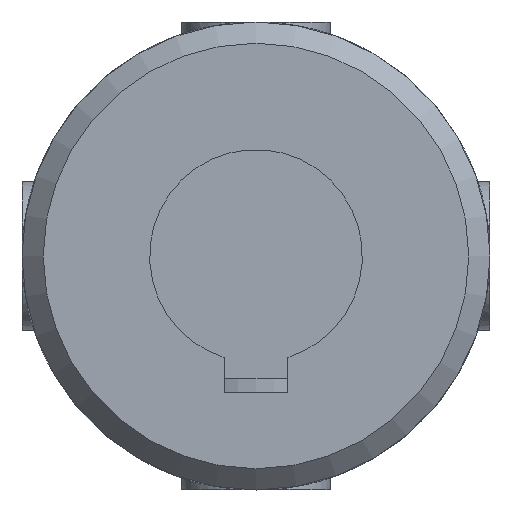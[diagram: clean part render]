
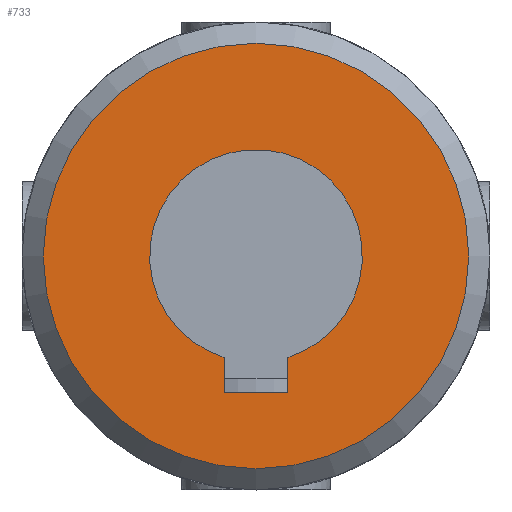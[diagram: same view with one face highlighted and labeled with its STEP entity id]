
A CAD part, front view. The second image highlights one B-rep face of the part: STEP entity #733.
In plain terms, the highlighted planar face has unit normal (0, -1, 0).
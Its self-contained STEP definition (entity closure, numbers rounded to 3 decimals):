
#83=LINE('',#1122,#116);
#87=LINE('',#1149,#120);
#89=LINE('',#1157,#122);
#116=VECTOR('',#916,1.63);
#120=VECTOR('',#928,3.);
#122=VECTOR('',#932,1.63);
#148=PLANE('',#802);
#174=FACE_BOUND('',#263,.T.);
#201=FACE_OUTER_BOUND('',#262,.T.);
#262=EDGE_LOOP('',(#591));
#263=EDGE_LOOP('',(#592,#593,#594,#595));
#303=CIRCLE('',#789,5.);
#309=CIRCLE('',#800,10.);
#347=VERTEX_POINT('',#1119);
#348=VERTEX_POINT('',#1121);
#351=VERTEX_POINT('',#1131);
#353=VERTEX_POINT('',#1147);
#362=VERTEX_POINT('',#1246);
#422=EDGE_CURVE('',#348,#347,#83,.T.);
#426=EDGE_CURVE('',#351,#348,#303,.T.);
#430=EDGE_CURVE('',#347,#353,#87,.T.);
#433=EDGE_CURVE('',#353,#351,#89,.T.);
#443=EDGE_CURVE('',#362,#362,#309,.T.);
#591=ORIENTED_EDGE('',*,*,#443,.F.);
#592=ORIENTED_EDGE('',*,*,#422,.T.);
#593=ORIENTED_EDGE('',*,*,#430,.T.);
#594=ORIENTED_EDGE('',*,*,#433,.T.);
#595=ORIENTED_EDGE('',*,*,#426,.T.);
#733=ADVANCED_FACE('',(#201,#174),#148,.F.);
#789=AXIS2_PLACEMENT_3D('',#1132,#922,#923);
#800=AXIS2_PLACEMENT_3D('',#1247,#949,#950);
#802=AXIS2_PLACEMENT_3D('',#1423,#957,#958);
#916=DIRECTION('',(0.,0.,-1.));
#922=DIRECTION('center_axis',(0.,1.,0.));
#923=DIRECTION('ref_axis',(0.3,0.,-0.954));
#928=DIRECTION('',(-1.,0.,0.));
#932=DIRECTION('',(0.,0.,1.));
#949=DIRECTION('center_axis',(0.,1.,0.));
#950=DIRECTION('ref_axis',(1.,0.,0.));
#957=DIRECTION('center_axis',(0.,1.,0.));
#958=DIRECTION('ref_axis',(0.,0.,1.));
#1119=CARTESIAN_POINT('',(1.5,-29.5,-6.4));
#1121=CARTESIAN_POINT('',(1.5,-29.5,-4.77));
#1122=CARTESIAN_POINT('',(1.5,-29.5,-2.385));
#1131=CARTESIAN_POINT('',(-1.5,-29.5,-4.77));
#1132=CARTESIAN_POINT('Origin',(0.,-29.5,0.));
#1147=CARTESIAN_POINT('',(-1.5,-29.5,-6.4));
#1149=CARTESIAN_POINT('',(0.75,-29.5,-6.4));
#1157=CARTESIAN_POINT('',(-1.5,-29.5,-3.2));
#1246=CARTESIAN_POINT('',(-10.,-29.5,0.));
#1247=CARTESIAN_POINT('Origin',(0.,-29.5,0.));
#1423=CARTESIAN_POINT('Origin',(0.,-29.5,0.));
